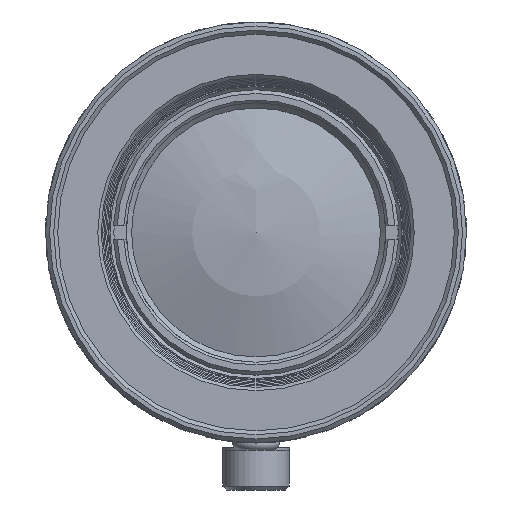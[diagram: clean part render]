
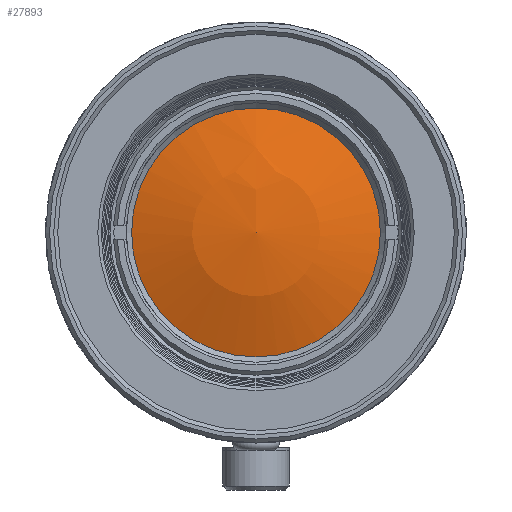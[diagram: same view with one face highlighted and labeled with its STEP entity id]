
A CAD part, front view. The second image highlights one B-rep face of the part: STEP entity #27893.
In plain terms, the highlighted spherical face has radius 25.72 mm.
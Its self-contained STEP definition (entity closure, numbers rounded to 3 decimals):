
#31=SPHERICAL_SURFACE('',#29404,25.72);
#2472=CIRCLE('',#29403,9.482);
#6109=ORIENTED_EDGE('',*,*,#10244,.F.);
#10244=EDGE_CURVE('',#12624,#12624,#2472,.T.);
#12624=VERTEX_POINT('',#48317);
#16616=EDGE_LOOP('',(#6109));
#18076=FACE_BOUND('',#16616,.T.);
#27893=ADVANCED_FACE('',(#18076),#31,.T.);
#29403=AXIS2_PLACEMENT_3D('',#48316,#32905,#32906);
#29404=AXIS2_PLACEMENT_3D('',#48318,#32907,#32908);
#32905=DIRECTION('',(0.,1.,0.));
#32906=DIRECTION('',(0.,0.,1.));
#32907=DIRECTION('',(0.,-1.,0.));
#32908=DIRECTION('',(0.,0.,1.));
#48316=CARTESIAN_POINT('',(0.,-67.347,0.));
#48317=CARTESIAN_POINT('',(0.,-67.347,9.482));
#48318=CARTESIAN_POINT('',(0.,-43.438,0.));
